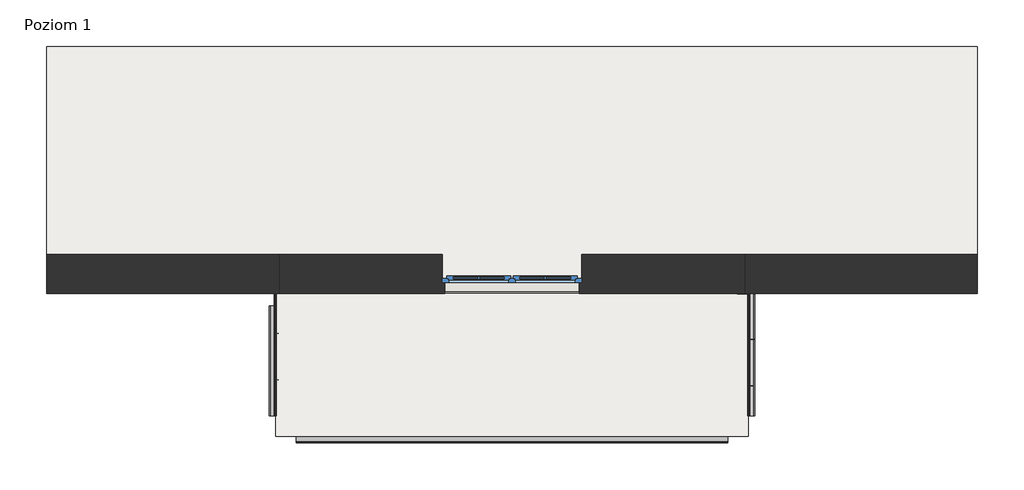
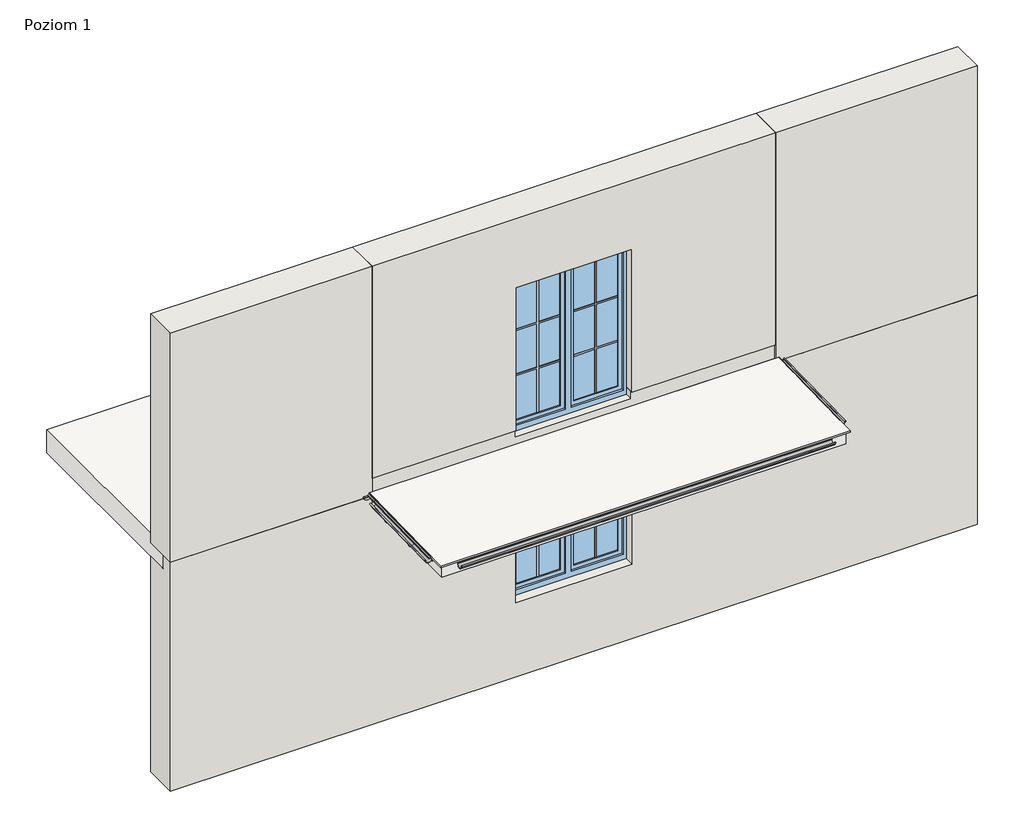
# One storey, part 1 of 4: 8 proxies, 5 walls, 3 slabs, 2 windows.
"""IFC4 building model written with IfcOpenShell, lengths in millimetres."""

from ifc_helpers import new_model, si_unit, frame, origin, place, context, project, spatial, polyline, outline, extrude, faceted_brep, transform, mapped, element, save
from components import generic_models_18ada34d, generic_models_37c944d1, k40_60f0cadf, k40_0e8d84a9, k40_7df9b5a1, rynna_alu_r75_rynna_alu_r75_52cbeec6, rynna_alu_r75_rynna_alu_r75_f71106fe, rynna_alu_r75_rynna_alu_r75_795bf1eb, window_150x150_51b7f79a, window_150x200_12b14935

model = new_model("IFC4")

# Units and contexts
model_context = context("Model", 3, world=origin())
ifc_project = project(units=[si_unit("LENGTHUNIT", "METRE", prefix="MILLI")], contexts=[model_context])

# Site, building, storey
site = spatial("IfcSite", under=ifc_project)
building = spatial("IfcBuilding", under=site)
storey = spatial("IfcBuildingStorey", under=building, Name="Poziom 1", Elevation=0.0)

# Proxies
placement = place(None, origin())
generic_models_shape = generic_models_18ada34d(model_context)
element("IfcBuildingElementProxy", 1, Name="Odbojnik - OPK40 : Odbojnik - OPK40", ObjectType="Odbojnik - OPK40 : Odbojnik - OPK40", at=placement, inside=storey, context=model_context, shape_type="MappedRepresentation", body=[
    mapped(generic_models_shape, transform((-97998.8475192, 56398.712448, -137.4476698), x_axis=(0.0, -0.9997639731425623, -0.021725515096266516), y_axis=(1.0, 0.0, 0.0), z_axis=(0.0, -0.021725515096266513, 0.9997639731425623))),
])
generic_models_2_shape = generic_models_37c944d1(model_context)
element("IfcBuildingElementProxy", 2, Name="Odbojnik przyścienny R75 : Odbojnik przyścienny R75", ObjectType="Odbojnik przyścienny R75 : Odbojnik przyścienny R75", at=placement, inside=storey, context=model_context, shape_type="MappedRepresentation", body=[
    mapped(generic_models_2_shape, transform((-103083.2202991, 56399.0336532, -131.671473), x_axis=(0.0, -0.9997639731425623, -0.021725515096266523), y_axis=(1.0, 0.0, 0.0), z_axis=(0.0, -0.021725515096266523, 0.9997639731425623))),
])
k40_shape = k40_60f0cadf(model_context)
element("IfcBuildingElementProxy", 3, Name="K40 Profil okapowy prosty z rynną : K40", ObjectType="K40 Profil okapowy prosty z rynną : K40", at=placement, inside=storey, context=model_context, shape_type="MappedRepresentation", body=[
    mapped(k40_shape, transform((-103032.4147313, 56264.4836257, -79.2723366), x_axis=(-1.4861025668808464e-12, -0.9997639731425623, -0.02172551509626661), y_axis=(1.0, -1.4857485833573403e-12, 0.0), z_axis=(0.0, -0.021725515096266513, 0.9997639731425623))),
])
k40_2_shape = k40_0e8d84a9(model_context)
element("IfcBuildingElementProxy", 4, Name="K40 Profil okapowy prosty z rynną : K40", ObjectType="K40 Profil okapowy prosty z rynną : K40", at=placement, inside=storey, context=model_context, shape_type="MappedRepresentation", body=[
    mapped(k40_2_shape, transform((-97958.4147313, 55084.7621374, -104.9084444), x_axis=(0.0, 0.9997639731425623, 0.021725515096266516), y_axis=(-1.0, 0.0, 0.0), z_axis=(0.0, -0.021725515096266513, 0.9997639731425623))),
])
k40_3_shape = k40_7df9b5a1(model_context)
element("IfcBuildingElementProxy", 5, Name="K40 Profil okapowy prosty z rynną : K40", ObjectType="K40 Profil okapowy prosty z rynną : K40", at=placement, inside=storey, context=model_context, shape_type="MappedRepresentation", body=[
    mapped(k40_3_shape, transform((-103032.4147313, 56401.2645056, -76.3), x_axis=(-1.4861025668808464e-12, -0.9997639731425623, -0.02172551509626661), y_axis=(1.0, -1.4857485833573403e-12, 0.0), z_axis=(0.0, -0.021725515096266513, 0.9997639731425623))),
])
rynna_alu_r75_rynna_alu_r75_shape = rynna_alu_r75_rynna_alu_r75_52cbeec6(model_context)
element("IfcBuildingElementProxy", 6, Name="Rynna ALU R75 : Rynna ALU R75", ObjectType="Rynna ALU R75 : Rynna ALU R75", at=placement, inside=storey, context=model_context, shape_type="MappedRepresentation", body=[
    mapped(rynna_alu_r75_rynna_alu_r75_shape, transform((-103015.6237583, 55675.249269, -120.9154653), x_axis=(-1.4861025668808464e-12, -0.9997639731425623, -0.02172551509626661), y_axis=(1.0, -1.4857485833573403e-12, 0.0), z_axis=(0.0, -0.021725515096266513, 0.9997639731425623))),
])
rynna_alu_r75_rynna_alu_r75_2_shape = rynna_alu_r75_rynna_alu_r75_f71106fe(model_context)
element("IfcBuildingElementProxy", 7, Name="Rynna ALU R75 : Rynna ALU R75", ObjectType="Rynna ALU R75 : Rynna ALU R75", at=placement, inside=storey, context=model_context, shape_type="MappedRepresentation", body=[
    mapped(rynna_alu_r75_rynna_alu_r75_2_shape, transform((-100495.4147313, 54882.2274606, -138.14834), x_axis=(1.0, 0.0, 0.0), y_axis=(0.0, 0.9997639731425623, 0.021725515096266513), z_axis=(0.0, -0.021725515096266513, 0.9997639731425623))),
])
rynna_alu_r75_rynna_alu_r75_3_shape = rynna_alu_r75_rynna_alu_r75_795bf1eb(model_context)
element("IfcBuildingElementProxy", 8, Name="Rynna ALU R75 : Rynna ALU R75", ObjectType="Rynna ALU R75 : Rynna ALU R75", at=placement, inside=storey, context=model_context, shape_type="MappedRepresentation", body=[
    mapped(rynna_alu_r75_rynna_alu_r75_3_shape, transform((-97975.2057043, 55741.3502895, -119.4790476), x_axis=(0.0, 0.9997639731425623, 0.021725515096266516), y_axis=(-1.0, 0.0, 0.0), z_axis=(0.0, -0.021725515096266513, 0.9997639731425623))),
])

# Slabs
element("IfcSlab", 9, ObjectType="Balkon - wykończenie - posadzka ceramiczna", at=placement, inside=storey, context=model_context, shape_type="SweptSolid", body=[
    extrude(outline(polyline([(54864.2645056, -125.7), (54864.2645056, -109.7), (56401.2645056, -76.3), (56401.2645056, -92.3), (54864.2645056, -125.7)])), frame((-103032.4147313, 0.0, 0.0), z_axis=(1.0, 0.0, 0.0), x_axis=(0.0, 1.0, 0.0)), (0.0, 0.0, 1.0), 5074.0),
])
element("IfcSlab", 10, ObjectType="Balkon - konstrukcja", at=placement, inside=storey, context=model_context, shape_type="Brep", body=[
    faceted_brep([(-102995.4147313, 54901.2645056, -285.0), (-102995.4147313, 56401.2645056, -285.0), (-102995.4147313, 56509.2645056, -285.0), (-97995.4147313, 56509.2645056, -285.0), (-97995.4147313, 56401.2645056, -285.0), (-97995.4147313, 54901.2645056, -285.0), (-102995.4147313, 54901.2645056, -125.0), (-102995.4147313, 56423.2645056, -94.0488806), (-102995.4147313, 56509.2645056, -92.3), (-102995.4147313, 56509.2645056, -125.0), (-97995.4147313, 56509.2645056, -92.3), (-97995.4147313, 56509.2645056, -125.0), (-97995.4147313, 54901.2645056, -125.0), (-97995.4147313, 56423.2645056, -94.0488806)], [[[0, 1, 2, 3, 4, 5]], [[2, 1, 0, 6, 7, 8, 9]], [[3, 2, 9, 8, 10, 11]], [[0, 5, 12, 6]], [[5, 4, 3, 11, 10, 13, 12]], [[12, 13, 10, 8, 7, 6]]]),
])
element("IfcSlab", 11, ObjectType="Strop", at=placement, inside=storey, context=model_context, shape_type="Brep", body=[
    faceted_brep([(-95495.4147313, 56556.2645056, -300.0), (-105495.4147313, 56556.2645056, -300.0), (-105495.4147313, 56821.2645056, -300.0), (-105495.4147313, 59056.2645056, -300.0), (-95495.4147313, 59056.2645056, -300.0), (-95495.4147313, 56821.2645056, -300.0), (-95495.4147313, 56556.2645056, 0.0), (-95495.4147313, 59056.2645056, 0.0), (-105495.4147313, 59056.2645056, 0.0), (-105495.4147313, 56556.2645056, 0.0), (-102995.4147313, 56556.2645056, 0.0), (-101245.4147313, 56556.2645056, 0.0), (-99745.4147313, 56556.2645056, 0.0), (-97995.4147313, 56556.2645056, 0.0), (-95495.4147313, 56556.2645056, -125.0), (-105495.4147313, 56556.2645056, -125.0)], [[[0, 1, 2, 3, 4, 5]], [[6, 7, 8, 9, 10, 11, 12, 13]], [[1, 0, 14, 6, 13, 12, 11, 10, 9, 15]], [[3, 2, 1, 15, 9, 8]], [[4, 3, 8, 7]], [[0, 5, 4, 7, 6, 14]]]),
])

# Walls
element("IfcWall", 12, ObjectType="Porotherm P+W 25 + o15 + t", at=placement, inside=storey, context=model_context, shape_type="Brep", body=[
    faceted_brep([(-105495.4147313, 56401.2645056, -3125.0), (-95495.4147313, 56401.2645056, -3125.0), (-95495.4147313, 56401.2645056, -125.0), (-97995.4147313, 56401.2645056, -125.0), (-97995.4147313, 56401.2645056, -285.0), (-102995.4147313, 56401.2645056, -285.0), (-102995.4147313, 56401.2645056, -125.0), (-105495.4147313, 56401.2645056, -125.0), (-99775.4147313, 56401.2645056, -680.0), (-99775.4147313, 56401.2645056, -2150.0), (-101215.4147313, 56401.2645056, -2150.0), (-101215.4147313, 56401.2645056, -680.0), (-95495.4147313, 56821.2645056, -3125.0), (-105495.4147313, 56821.2645056, -3125.0), (-105495.4147313, 56821.2645056, -300.0), (-95495.4147313, 56821.2645056, -300.0), (-99745.4147313, 56821.2645056, -2150.0), (-99745.4147313, 56821.2645056, -650.0), (-101245.4147313, 56821.2645056, -650.0), (-101245.4147313, 56821.2645056, -2150.0), (-95495.4147313, 56556.2645056, -300.0), (-95495.4147313, 56556.2645056, -125.0), (-97995.4147313, 56556.2645056, -125.0), (-102995.4147313, 56556.2645056, -125.0), (-105495.4147313, 56556.2645056, -125.0), (-102995.4147313, 56509.2645056, -125.0), (-97995.4147313, 56509.2645056, -125.0), (-105495.4147313, 56556.2645056, -300.0), (-99745.4147313, 56521.2645056, -650.0), (-99745.4147313, 56521.2645056, -2150.0), (-99775.4147313, 56521.2645056, -680.0), (-99775.4147313, 56521.2645056, -2150.0), (-97995.4147313, 56509.2645056, -285.0), (-102995.4147313, 56509.2645056, -285.0), (-101245.4147313, 56521.2645056, -650.0), (-101245.4147313, 56521.2645056, -2150.0), (-101215.4147313, 56521.2645056, -2150.0), (-101215.4147313, 56521.2645056, -680.0)], [[[0, 1, 2, 3, 4, 5, 6, 7], [8, 9, 10, 11]], [[12, 13, 14, 15], [16, 17, 18, 19]], [[1, 0, 13, 12]], [[2, 1, 12, 15, 20, 21]], [[2, 21, 22, 23, 24, 7, 6, 25, 26, 3]], [[0, 7, 24, 27, 14, 13]], [[28, 17, 16, 29]], [[8, 30, 31, 9]], [[27, 20, 15, 14]], [[20, 27, 24, 23, 22, 21]], [[32, 33, 5, 4]], [[5, 33, 25, 6]], [[33, 32, 26, 25]], [[32, 4, 3, 26]], [[17, 28, 34, 18]], [[29, 16, 19, 35, 36, 10, 9, 31]], [[34, 28, 29, 31, 30, 37, 36, 35]], [[34, 35, 19, 18]], [[30, 8, 11, 37]], [[10, 36, 37, 11]]]),
])
element("IfcWall", 13, ObjectType="Porotherm P+W 25 + o15 + t", at=placement, inside=storey, context=model_context, shape_type="Brep", body=[
    faceted_brep([(-105495.4147313, 56401.2645056, -125.0), (-102995.4147313, 56401.2645056, -125.0), (-102995.4147313, 56401.2645056, 100.0), (-102995.4147313, 56401.2645056, 2875.0), (-105495.4147313, 56401.2645056, 2875.0), (-105495.4147313, 56821.2645056, -125.0), (-105495.4147313, 56821.2645056, 2875.0), (-102995.4147313, 56821.2645056, 2875.0), (-102995.4147313, 56821.2645056, 100.0), (-102995.4147313, 56821.2645056, 0.0), (-102995.4147313, 56821.2645056, -125.0), (-105495.4147313, 56556.2645056, -125.0), (-102995.4147313, 56556.2645056, -125.0), (-102995.4147313, 56509.2645056, -125.0)], [[[0, 1, 2, 3, 4]], [[5, 6, 7, 8, 9, 10]], [[1, 0, 11, 5, 10, 12, 13]], [[4, 3, 7, 6]], [[0, 4, 6, 5, 11]], [[1, 13, 12, 10, 9, 8, 7, 3, 2]]]),
])
element("IfcWall", 14, ObjectType="Porotherm P+W 25 + o15 + t", at=placement, inside=storey, context=model_context, shape_type="Brep", body=[
    faceted_brep([(-97995.4147313, 56401.2645056, 2875.0), (-97995.4147313, 56401.2645056, 100.0), (-97995.4147313, 56401.2645056, -125.0), (-95495.4147313, 56401.2645056, -125.0), (-95495.4147313, 56401.2645056, 2875.0), (-97995.4147313, 56821.2645056, -125.0), (-97995.4147313, 56821.2645056, 0.0), (-97995.4147313, 56821.2645056, 100.0), (-97995.4147313, 56821.2645056, 2875.0), (-95495.4147313, 56821.2645056, 2875.0), (-95495.4147313, 56821.2645056, -125.0), (-97995.4147313, 56509.2645056, -125.0), (-97995.4147313, 56556.2645056, -125.0), (-95495.4147313, 56556.2645056, -125.0)], [[[0, 1, 2, 3, 4]], [[5, 6, 7, 8, 9, 10]], [[3, 2, 11, 12, 5, 10, 13]], [[4, 3, 13, 10, 9]], [[0, 4, 9, 8]], [[0, 8, 7, 6, 5, 12, 11, 2, 1]]]),
])
element("IfcWall", 15, ObjectType="Porotherm P+W 25 + o12 + pł ceramiczne", at=placement, inside=storey, context=model_context, shape_type="Brep", body=[
    faceted_brep([(-97995.4147313, 56423.2645056, 100.0), (-99775.4147313, 56423.2645056, 100.0), (-99775.4147313, 56423.2645056, 0.0), (-101215.4147313, 56423.2645056, 0.0), (-101215.4147313, 56423.2645056, 100.0), (-102995.4147313, 56423.2645056, 100.0), (-102995.4147313, 56423.2645056, -94.0488806), (-97995.4147313, 56423.2645056, -94.0488806), (-102995.4147313, 56821.2645056, 0.0), (-102995.4147313, 56821.2645056, 100.0), (-101245.4147313, 56821.2645056, 100.0), (-101245.4147313, 56821.2645056, 0.0), (-97995.4147313, 56821.2645056, 100.0), (-97995.4147313, 56821.2645056, 0.0), (-99745.4147313, 56821.2645056, 0.0), (-99745.4147313, 56821.2645056, 100.0), (-102995.4147313, 56556.2645056, -125.0), (-97995.4147313, 56556.2645056, -125.0), (-97995.4147313, 56509.2645056, -125.0), (-102995.4147313, 56509.2645056, -125.0), (-97995.4147313, 56509.2645056, -92.3), (-97995.4147313, 56556.2645056, 0.0), (-99745.4147313, 56521.2645056, 100.0), (-99775.4147313, 56521.2645056, 100.0), (-101215.4147313, 56521.2645056, 100.0), (-101245.4147313, 56521.2645056, 100.0), (-102995.4147313, 56556.2645056, 0.0), (-102995.4147313, 56509.2645056, -92.3), (-101245.4147313, 56556.2645056, 0.0), (-99745.4147313, 56556.2645056, 0.0), (-101245.4147313, 56521.2645056, 0.0), (-101215.4147313, 56521.2645056, 0.0), (-99775.4147313, 56521.2645056, 0.0), (-99745.4147313, 56521.2645056, 0.0)], [[[0, 1, 2, 3, 4, 5, 6, 7]], [[8, 9, 10, 11]], [[12, 13, 14, 15]], [[16, 17, 18, 19]], [[12, 0, 7, 20, 18, 17, 21, 13]], [[0, 12, 15, 22, 23, 1]], [[9, 5, 4, 24, 25, 10]], [[5, 9, 8, 26, 16, 19, 27, 6]], [[8, 11, 28, 26]], [[13, 21, 29, 14]], [[17, 16, 26, 28, 29, 21]], [[20, 27, 19, 18]], [[27, 20, 7, 6]], [[30, 31, 3, 2, 32, 33, 29, 28]], [[31, 30, 25, 24]], [[33, 32, 23, 22]], [[33, 22, 15, 14, 29]], [[25, 30, 28, 11, 10]], [[32, 2, 1, 23]], [[3, 31, 24, 4]]]),
])
element("IfcWall", 16, ObjectType="Porotherm P+W 25 + o15 + t", at=placement, inside=storey, context=model_context, shape_type="Brep", body=[
    faceted_brep([(-97995.4147313, 56401.2645056, 100.0), (-97995.4147313, 56401.2645056, 2875.0), (-102995.4147313, 56401.2645056, 2875.0), (-102995.4147313, 56401.2645056, 100.0), (-101215.4147313, 56401.2645056, 100.0), (-101215.4147313, 56401.2645056, 1970.0), (-99775.4147313, 56401.2645056, 1970.0), (-99775.4147313, 56401.2645056, 100.0), (-97995.4147313, 56821.2645056, 2875.0), (-97995.4147313, 56821.2645056, 100.0), (-99745.4147313, 56821.2645056, 100.0), (-99745.4147313, 56821.2645056, 2000.0), (-101245.4147313, 56821.2645056, 2000.0), (-101245.4147313, 56821.2645056, 100.0), (-102995.4147313, 56821.2645056, 100.0), (-102995.4147313, 56821.2645056, 2875.0), (-102995.4147313, 56423.2645056, 100.0), (-101245.4147313, 56521.2645056, 100.0), (-101215.4147313, 56521.2645056, 100.0), (-101215.4147313, 56423.2645056, 100.0), (-97995.4147313, 56423.2645056, 100.0), (-99775.4147313, 56423.2645056, 100.0), (-99775.4147313, 56521.2645056, 100.0), (-99745.4147313, 56521.2645056, 100.0), (-99745.4147313, 56521.2645056, 2000.0), (-99775.4147313, 56521.2645056, 1970.0), (-101245.4147313, 56521.2645056, 2000.0), (-101215.4147313, 56521.2645056, 1970.0)], [[[0, 1, 2, 3, 4, 5, 6, 7]], [[8, 9, 10, 11, 12, 13, 14, 15]], [[3, 16, 14, 13, 17, 18, 19, 4]], [[9, 20, 0, 7, 21, 22, 23, 10]], [[1, 0, 20, 9, 8]], [[2, 1, 8, 15]], [[3, 2, 15, 14, 16]], [[24, 11, 10, 23]], [[6, 25, 22, 21, 7]], [[26, 12, 11, 24]], [[26, 24, 23, 22, 25, 27, 18, 17]], [[12, 26, 17, 13]], [[27, 25, 6, 5]], [[27, 5, 4, 19, 18]]]),
])

# Windows
window_150x150_shape = window_150x150_51b7f79a(model_context)
element("IfcWindow", 17, ObjectType="OKNO_2X_W_SZ : 150x150", at=placement, inside=storey, context=model_context, shape_type="MappedRepresentation", body=[
    mapped(window_150x150_shape, transform((-100495.4147313, 56611.2645056, -3000.0), x_axis=(-1.0, 0.0, 0.0), y_axis=(0.0, -1.0, 0.0), z_axis=(0.0, 0.0, 1.0))),
])
window_150x200_shape = window_150x200_12b14935(model_context)
element("IfcWindow", 18, ObjectType="OKNO_2X_W_SZ : 150x200", at=placement, inside=storey, context=model_context, shape_type="MappedRepresentation", body=[
    mapped(window_150x200_shape, transform((-100495.4147313, 56611.2645056, -850.0), x_axis=(-1.0, 0.0, 0.0), y_axis=(0.0, -1.0, 0.0), z_axis=(0.0, 0.0, 1.0))),
])

save(model, "model.ifc")
